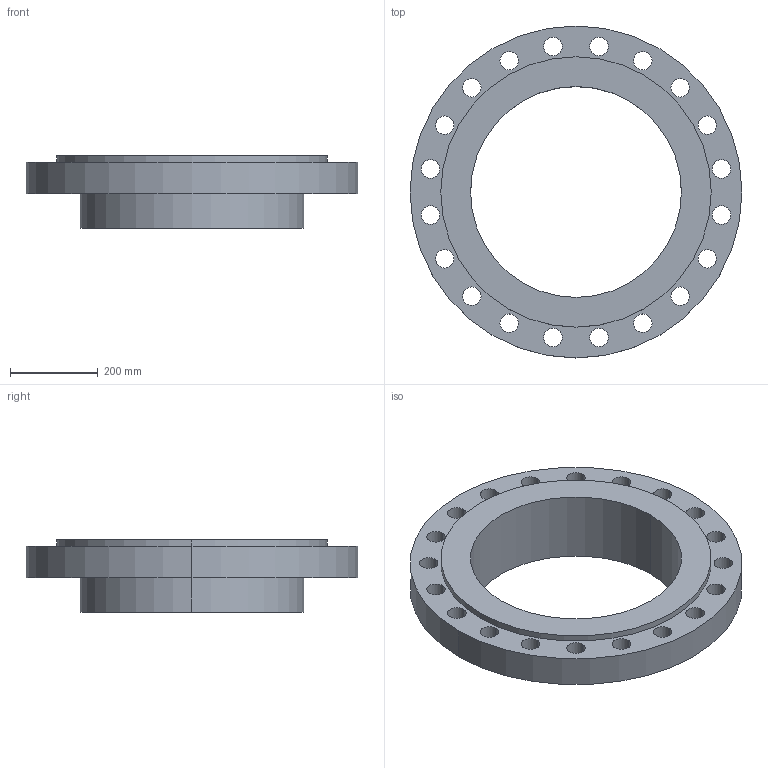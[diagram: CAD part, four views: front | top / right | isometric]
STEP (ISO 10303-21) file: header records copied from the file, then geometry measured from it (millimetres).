
FILE_DESCRIPTION (( 'STEP AP214' ), '1' );
FILE_NAME ('PN40 DN500 Type 02 in 33 - (Type A Face).STEP', '2018-12-29T05:35:37', ( '' ), ( '' ), 'SwSTEP 2.0', 'SolidWorks 2019', '' );
FILE_SCHEMA (( 'AUTOMOTIVE_DESIGN' ));
Length unit declared in the file: millimetre
Products named in the file (1): PN40 DN500 Type 02 in 33 - (Type A Face)
Bounding box: 755 x 755 x 164.2 mm (x, y, z)
Volume: 19963236 mm3; surface area: 1627118.6 mm2
Topology: 2 solids, 2 shells, 59 faces, 158 edges, 104 vertices
Faces by surface type: cylinder 50, plane 5, cone 4
Entity records: 2035 total; most frequent: DIRECTION 382, CARTESIAN_POINT 322, ORIENTED_EDGE 316, AXIS2_PLACEMENT_3D 164, EDGE_CURVE 158, CIRCLE 104, EDGE_LOOP 104, VERTEX_POINT 104
